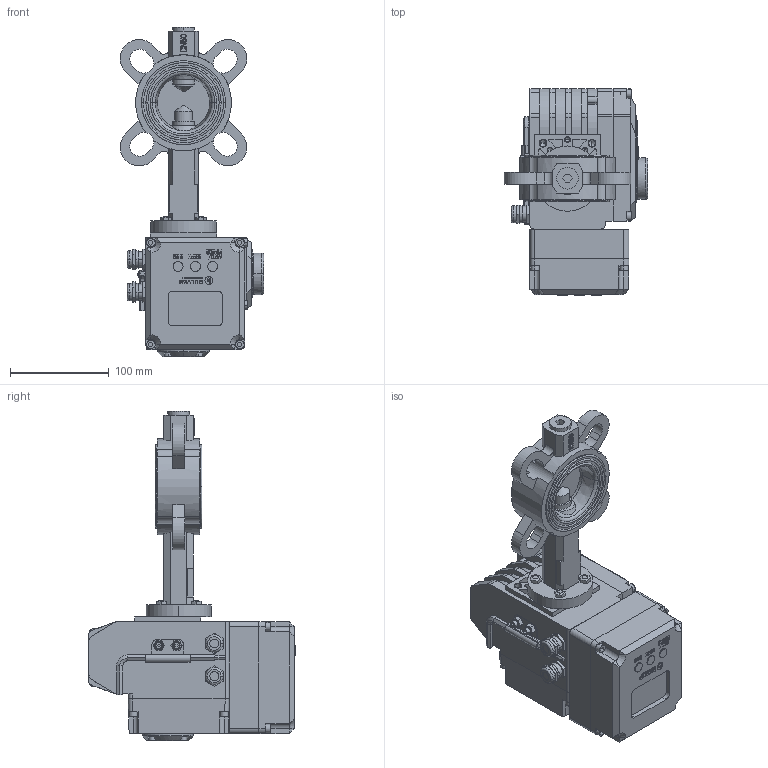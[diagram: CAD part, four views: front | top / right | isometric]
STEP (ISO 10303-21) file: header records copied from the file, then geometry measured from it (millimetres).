
FILE_DESCRIPTION((''),'2;1');
FILE_NAME('VBS_111_EAR_A_ASM','2025-02-25T',('USER'),(''),'PRO/ENGINEER BY PARAMETRIC TECHNOLOGY CORPORATION, 2011220','PRO/ENGINEER BY PARAMETRIC TECHNOLOGY CORPORATION, 2011220','');
FILE_SCHEMA(('CONFIG_CONTROL_DESIGN'));
Products named in the file (28): KORPUS; REZ; DISK; SHTIR_1; ZAGLUSHKA; O-RING; SHTIR_2; SHAIBA_RAZREZ; SHAIBA; KOLCO_22_GOST13943; VTULKA; MANZET_REZ; SB_ASM; B-7798-M6-20; DET_1; V-11738-M5; V-11738-M4; DET_2; KREPLENIE; KLUCH; DET_3; G-5915-M6; ELECTROPRIVOD_ASM; DET_4; DET_5; DISPLAY_ASM; ELECTROPRIVOD_WITH_DISPLAY_ASM; VBS_111_EAR_A_ASM
Assembly tree (51 placements, depth 4):
  VBS_111_EAR_A_ASM
    SB_ASM
      KORPUS
      REZ
      DISK
      SHTIR_1
      ZAGLUSHKA
      O-RING  x2
      SHTIR_2
      SHAIBA_RAZREZ
      SHAIBA  x2
      KOLCO_22_GOST13943
      VTULKA  x5
      MANZET_REZ
    B-7798-M6-20  x4
    ELECTROPRIVOD_WITH_DISPLAY_ASM
      ELECTROPRIVOD_ASM
        DET_1
        V-11738-M5  x8
        V-11738-M4  x4
        DET_2
        KREPLENIE
        KLUCH
        DET_3
        G-5915-M6  x2
      DISPLAY_ASM
        DET_4
        DET_5
        V-11738-M5  x4
Bounding box: 144.83 x 209 x 333.5 mm (x, y, z)
Volume: 2468129.3 mm3; surface area: 368644.1 mm2
Topology: 47 solids, 86 shells, 2693 faces, 7127 edges, 4701 vertices
Faces by surface type: plane 1771, cylinder 482, extrusion 300, cone 102, torus 38
Entity records: 75431 total; most frequent: CARTESIAN_POINT 15947, ORIENTED_EDGE 12558, DIRECTION 11235, EDGE_CURVE 6323, VECTOR 5015, LINE 4715, VERTEX_POINT 4187, AXIS2_PLACEMENT_3D 3110
